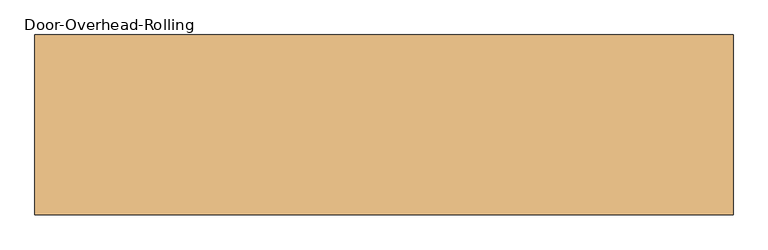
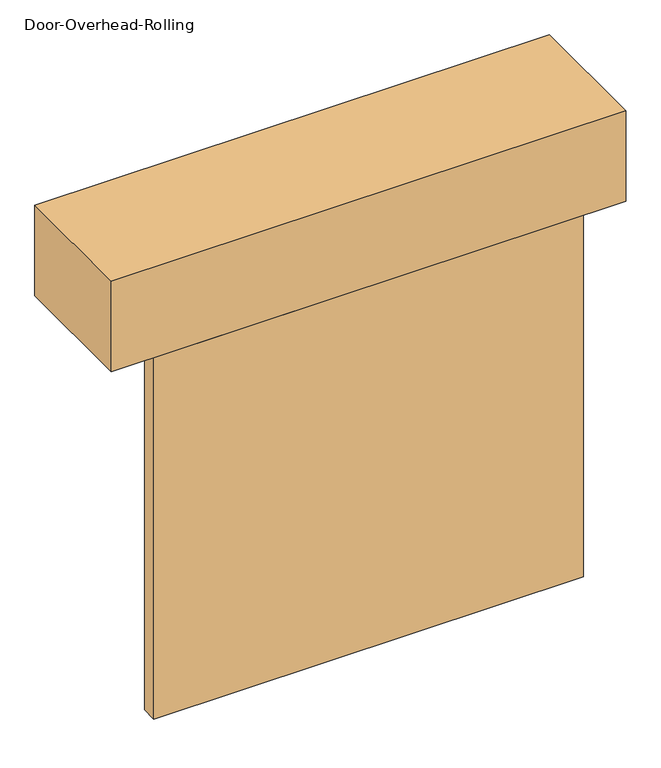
"""IFC4 building model written with IfcOpenShell, lengths in millimetres: door geometry, Door-Overhead-Rolling : 168'' x 168''."""

from ifc_helpers import new_model, si_unit, frame, origin, origin_with_axes, place, context, project, spatial, polyline, outline, extrude, source, transform, mapped, element, save


def door_overhead_rolling_85c29fc8(model_context):
    return source(origin(), model_context, "Body", "SweptSolid", [
        extrude(outline(polyline([(1231.9, 787.4), (1231.9, 152.4), (-1231.9, 152.4), (-1231.9, 787.4), (1231.9, 787.4)])), frame((0.0, 0.0, 1828.8), z_axis=(0.0, 0.0, 1.0), x_axis=(1.0, 0.0, 0.0)), (0.0, 0.0, 1.0), 457.2),
        extrude(outline(polyline([(1028.7, 152.4), (-1028.7, 152.4), (-1028.7, 228.6), (1028.7, 228.6), (1028.7, 152.4)])), origin_with_axes(), (0.0, 0.0, 1.0), 1828.8),
    ])


if __name__ == "__main__":
    model = new_model("IFC4")
    model_context = context("Model", 3, world=origin())
    ifc_project = project(units=[si_unit("LENGTHUNIT", "METRE", prefix="MILLI")], contexts=[model_context])
    site = spatial("IfcSite", under=ifc_project)
    building = spatial("IfcBuilding", under=site)
    placement = place(None, origin())
    door_overhead_rolling_shape = door_overhead_rolling_85c29fc8(model_context)
    element("IfcDoor", 1, ObjectType="Door-Overhead-Rolling : 168'' x 168''", at=placement, inside=building, context=model_context, shape_type="MappedRepresentation", body=[
        mapped(door_overhead_rolling_shape, transform((0.0, 0.0, 0.0), x_axis=(1.0, 0.0, 0.0), y_axis=(0.0, 1.0, 0.0), z_axis=(0.0, 0.0, 1.0))),
    ])
    save(model, "model.ifc")
